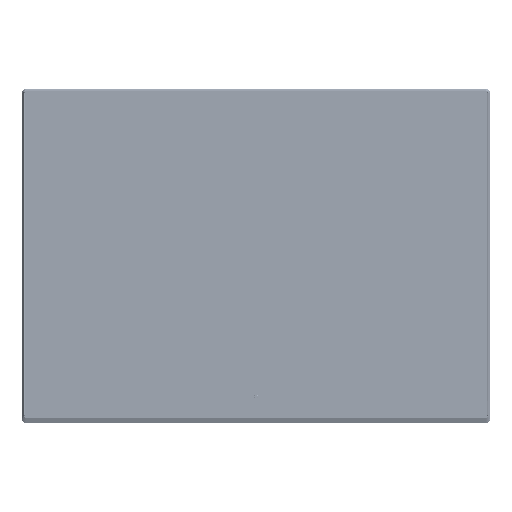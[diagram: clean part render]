
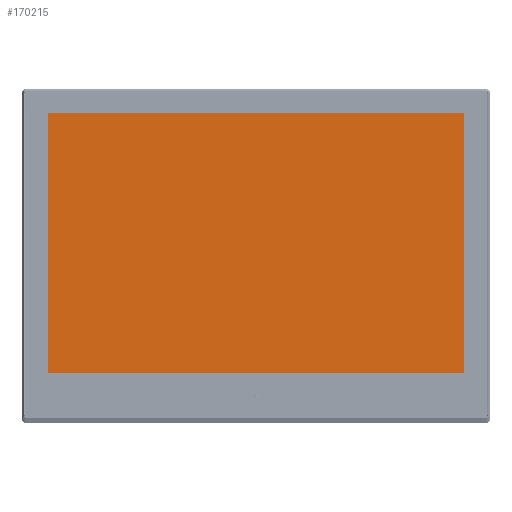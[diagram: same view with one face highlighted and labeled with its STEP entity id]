
A CAD part, top view. The second image highlights one B-rep face of the part: STEP entity #170215.
In plain terms, the highlighted planar face has unit normal (0, 0, 1).
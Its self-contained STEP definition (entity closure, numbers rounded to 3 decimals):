
#169922=DIRECTION('',(0.,-1.,0.));
#169923=VECTOR('',#169922,22.65);
#169924=CARTESIAN_POINT('',(252.82,-187.65,0.75));
#169925=LINE('',#169924,#169923);
#169966=DIRECTION('',(-1.,0.,0.));
#169967=VECTOR('',#169966,210.4);
#169968=CARTESIAN_POINT('',(252.82,-187.65,0.75));
#169969=LINE('',#169968,#169967);
#169970=DIRECTION('',(0.,-1.,0.));
#169971=VECTOR('',#169970,22.65);
#169972=CARTESIAN_POINT('',(42.42,-187.65,0.75));
#169973=LINE('',#169972,#169971);
#169974=DIRECTION('',(-1.,0.,0.));
#169975=VECTOR('',#169974,334.17);
#169976=CARTESIAN_POINT('',(42.42,-210.3,0.75));
#169977=LINE('',#169976,#169975);
#169978=DIRECTION('',(0.,1.,0.));
#169979=VECTOR('',#169978,396.8);
#169980=CARTESIAN_POINT('',(-291.75,-210.3,0.75));
#169981=LINE('',#169980,#169979);
#169982=DIRECTION('',(1.,0.,0.));
#169983=VECTOR('',#169982,583.5);
#169984=CARTESIAN_POINT('',(-291.75,186.5,0.75));
#169985=LINE('',#169984,#169983);
#169986=DIRECTION('',(0.,-1.,0.));
#169987=VECTOR('',#169986,396.8);
#169988=CARTESIAN_POINT('',(291.75,186.5,0.75));
#169989=LINE('',#169988,#169987);
#169990=DIRECTION('',(-1.,0.,0.));
#169991=VECTOR('',#169990,38.93);
#169992=CARTESIAN_POINT('',(291.75,-210.3,0.75));
#169993=LINE('',#169992,#169991);
#169994=CARTESIAN_POINT('',(0.,-203.45,0.75));
#169995=DIRECTION('',(0.,0.,1.));
#169996=DIRECTION('',(1.,0.,0.));
#169997=AXIS2_PLACEMENT_3D('',#169994,#169995,#169996);
#169999=CARTESIAN_POINT('',(0.,-203.45,0.75));
#170000=DIRECTION('',(0.,0.,1.));
#170001=DIRECTION('',(-1.,0.,0.));
#170002=AXIS2_PLACEMENT_3D('',#169999,#170000,#170001);
#170032=CARTESIAN_POINT('',(252.82,-187.65,0.75));
#170033=VERTEX_POINT('',#170032);
#170034=CARTESIAN_POINT('',(252.82,-210.3,0.75));
#170035=VERTEX_POINT('',#170034);
#170036=CARTESIAN_POINT('',(42.42,-187.65,0.75));
#170037=VERTEX_POINT('',#170036);
#170038=CARTESIAN_POINT('',(42.42,-210.3,0.75));
#170039=VERTEX_POINT('',#170038);
#170040=CARTESIAN_POINT('',(291.75,-210.3,0.75));
#170041=VERTEX_POINT('',#170040);
#170042=CARTESIAN_POINT('',(-291.75,-210.3,0.75));
#170043=VERTEX_POINT('',#170042);
#170044=CARTESIAN_POINT('',(-291.75,186.5,0.75));
#170045=VERTEX_POINT('',#170044);
#170046=CARTESIAN_POINT('',(291.75,186.5,0.75));
#170047=VERTEX_POINT('',#170046);
#170048=CARTESIAN_POINT('',(2.5,-203.45,0.75));
#170049=CARTESIAN_POINT('',(-2.5,-203.45,0.75));
#170050=VERTEX_POINT('',#170048);
#170051=VERTEX_POINT('',#170049);
#170194=CARTESIAN_POINT('',(0.,0.,0.75));
#170195=DIRECTION('',(0.,0.,1.));
#170196=DIRECTION('',(1.,0.,0.));
#170197=AXIS2_PLACEMENT_3D('',#170194,#170195,#170196);
#170198=PLANE('',#170197);
#170199=ORIENTED_EDGE('',*,*,#170090,.F.);
#170200=ORIENTED_EDGE('',*,*,#170105,.T.);
#170201=ORIENTED_EDGE('',*,*,#170119,.T.);
#170202=ORIENTED_EDGE('',*,*,#170134,.T.);
#170203=ORIENTED_EDGE('',*,*,#170147,.T.);
#170204=ORIENTED_EDGE('',*,*,#170161,.T.);
#170205=ORIENTED_EDGE('',*,*,#170175,.T.);
#170206=ORIENTED_EDGE('',*,*,#170187,.T.);
#170207=EDGE_LOOP('',(#170199,#170200,#170201,#170202,#170203,#170204,#170205,
#170206));
#170208=FACE_OUTER_BOUND('',#170207,.F.);
#170210=ORIENTED_EDGE('',*,*,#170209,.T.);
#170212=ORIENTED_EDGE('',*,*,#170211,.T.);
#170213=EDGE_LOOP('',(#170210,#170212));
#170214=FACE_BOUND('',#170213,.F.);
#169998=CIRCLE('',#169997,2.5);
#170003=CIRCLE('',#170002,2.5);
#170090=EDGE_CURVE('',#170033,#170035,#169925,.T.);
#170105=EDGE_CURVE('',#170033,#170037,#169969,.T.);
#170119=EDGE_CURVE('',#170037,#170039,#169973,.T.);
#170134=EDGE_CURVE('',#170039,#170043,#169977,.T.);
#170147=EDGE_CURVE('',#170043,#170045,#169981,.T.);
#170161=EDGE_CURVE('',#170045,#170047,#169985,.T.);
#170175=EDGE_CURVE('',#170047,#170041,#169989,.T.);
#170187=EDGE_CURVE('',#170041,#170035,#169993,.T.);
#170209=EDGE_CURVE('',#170050,#170051,#169998,.T.);
#170211=EDGE_CURVE('',#170051,#170050,#170003,.T.);
#170215=ADVANCED_FACE('',(#170208,#170214),#170198,.T.);
